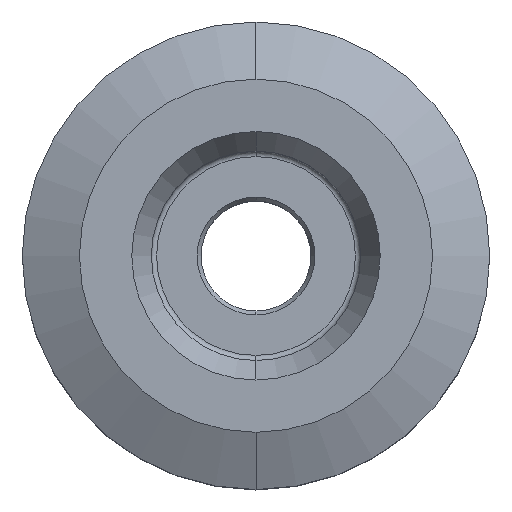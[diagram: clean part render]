
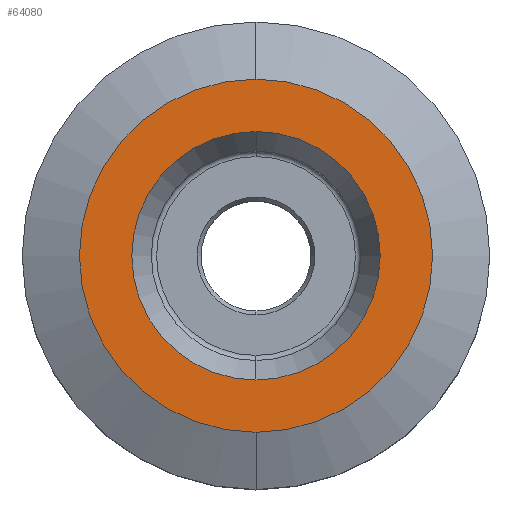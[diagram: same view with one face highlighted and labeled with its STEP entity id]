
A CAD part, top view. The second image highlights one B-rep face of the part: STEP entity #64080.
In plain terms, the highlighted planar face has unit normal (0, 0, 1).
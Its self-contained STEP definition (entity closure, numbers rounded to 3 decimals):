
#63971=CARTESIAN_POINT('Vertex',(0.,-4.75,5.5)) ;
#63974=CARTESIAN_POINT('Axis2P3D Location',(0.,0.,5.5)) ;
#63978=CARTESIAN_POINT('Vertex',(0.,4.75,5.5)) ;
#63993=CARTESIAN_POINT('Axis2P3D Location',(0.,0.,5.5)) ;
#64053=CARTESIAN_POINT('Axis2P3D Location',(0.,4.75,5.5)) ;
#64058=CARTESIAN_POINT('Axis2P3D Location',(0.,0.,5.5)) ;
#64062=CARTESIAN_POINT('Vertex',(0.,-6.75,5.5)) ;
#64064=CARTESIAN_POINT('Vertex',(0.,6.75,5.5)) ;
#64067=CARTESIAN_POINT('Axis2P3D Location',(0.,0.,5.5)) ;
#63975=DIRECTION('Axis2P3D Direction',(0.,0.,1.)) ;
#63994=DIRECTION('Axis2P3D Direction',(0.,0.,1.)) ;
#64054=DIRECTION('Axis2P3D Direction',(0.,0.,1.)) ;
#64055=DIRECTION('Axis2P3D XDirection',(1.,0.,0.)) ;
#64059=DIRECTION('Axis2P3D Direction',(0.,0.,1.)) ;
#64068=DIRECTION('Axis2P3D Direction',(0.,0.,1.)) ;
#63976=AXIS2_PLACEMENT_3D('Circle Axis2P3D',#63974,#63975,$) ;
#63995=AXIS2_PLACEMENT_3D('Circle Axis2P3D',#63993,#63994,$) ;
#64056=AXIS2_PLACEMENT_3D('Plane Axis2P3D',#64053,#64054,#64055) ;
#64060=AXIS2_PLACEMENT_3D('Circle Axis2P3D',#64058,#64059,$) ;
#64069=AXIS2_PLACEMENT_3D('Circle Axis2P3D',#64067,#64068,$) ;
#63977=CIRCLE('generated circle',#63976,4.75) ;
#63996=CIRCLE('generated circle',#63995,4.75) ;
#64061=CIRCLE('generated circle',#64060,6.75) ;
#64070=CIRCLE('generated circle',#64069,6.75) ;
#64057=PLANE('',#64056) ;
#64079=FACE_BOUND('',#64076,.T.) ;
#63980=EDGE_CURVE('',#63972,#63979,#63977,.T.) ;
#63997=EDGE_CURVE('',#63979,#63972,#63996,.T.) ;
#64066=EDGE_CURVE('',#64063,#64065,#64061,.T.) ;
#64071=EDGE_CURVE('',#64065,#64063,#64070,.T.) ;
#64073=ORIENTED_EDGE('',*,*,#64066,.T.) ;
#64074=ORIENTED_EDGE('',*,*,#64071,.T.) ;
#64077=ORIENTED_EDGE('',*,*,#63997,.F.) ;
#64078=ORIENTED_EDGE('',*,*,#63980,.F.) ;
#64072=EDGE_LOOP('',(#64073,#64074)) ;
#64076=EDGE_LOOP('',(#64077,#64078)) ;
#63972=VERTEX_POINT('',#63971) ;
#63979=VERTEX_POINT('',#63978) ;
#64063=VERTEX_POINT('',#64062) ;
#64065=VERTEX_POINT('',#64064) ;
#64080=ADVANCED_FACE('TEAMS',(#64075,#64079),#64057,.T.) ;
#64075=FACE_OUTER_BOUND('',#64072,.T.) ;
